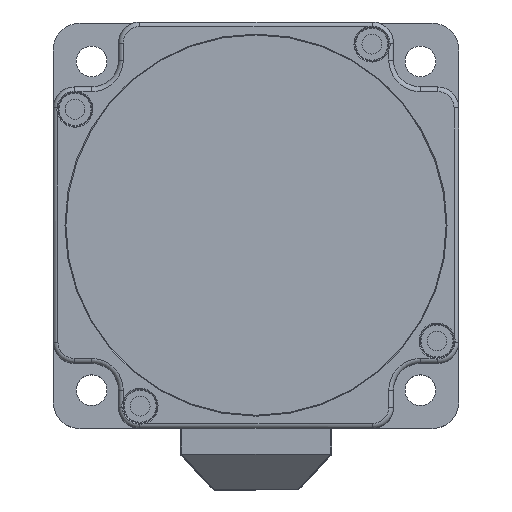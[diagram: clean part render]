
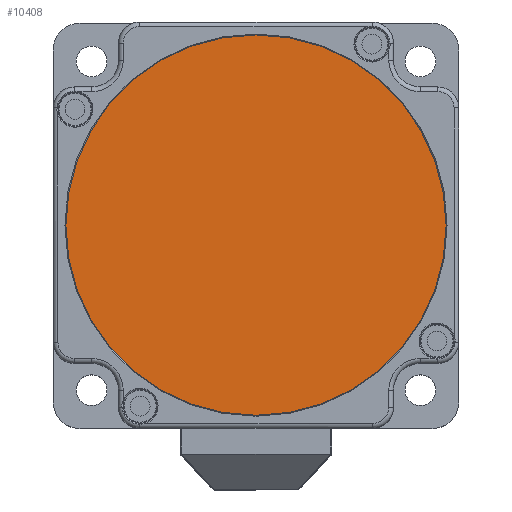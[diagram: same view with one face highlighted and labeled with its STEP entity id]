
A CAD part, top view. The second image highlights one B-rep face of the part: STEP entity #10408.
In plain terms, the highlighted planar face has unit normal (0, 0, 1) as drawn and (0, 0, -1) by its records, which use the part's own axes.
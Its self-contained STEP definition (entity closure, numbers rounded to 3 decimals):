
#611 = DIRECTION ( 'NONE',  ( -1., 0., 0. ) ) ;
#758 = CARTESIAN_POINT ( 'NONE',  ( 0., 0., 0.4 ) ) ;
#1763 = DIRECTION ( 'NONE',  ( 0., 0., -1. ) ) ;
#5478 = EDGE_CURVE ( 'NONE', #10422, #10422, #16056, .T. ) ;
#6293 = AXIS2_PLACEMENT_3D ( 'NONE', #11366, #1763, #611 ) ;
#7011 = ORIENTED_EDGE ( 'NONE', *, *, #5478, .T. ) ;
#7451 = DIRECTION ( 'NONE',  ( 0., 0., -1. ) ) ;
#7901 = EDGE_LOOP ( 'NONE', ( #7011 ) ) ;
#8931 = AXIS2_PLACEMENT_3D ( 'NONE', #758, #7451, #15644 ) ;
#10408 = ADVANCED_FACE ( 'NONE', ( #13516 ), #15552, .T. ) ;
#10422 = VERTEX_POINT ( 'NONE', #16068 ) ;
#11366 = CARTESIAN_POINT ( 'NONE',  ( 0., 0., 0.4 ) ) ;
#13516 = FACE_OUTER_BOUND ( 'NONE', #7901, .T. ) ;
#15552 = PLANE ( 'NONE',  #6293 ) ;
#15644 = DIRECTION ( 'NONE',  ( -1., 0., 0. ) ) ;
#16056 = CIRCLE ( 'NONE', #8931, 40.25 ) ;
#16068 = CARTESIAN_POINT ( 'NONE',  ( -40.25, 0., 0.4 ) ) ;
